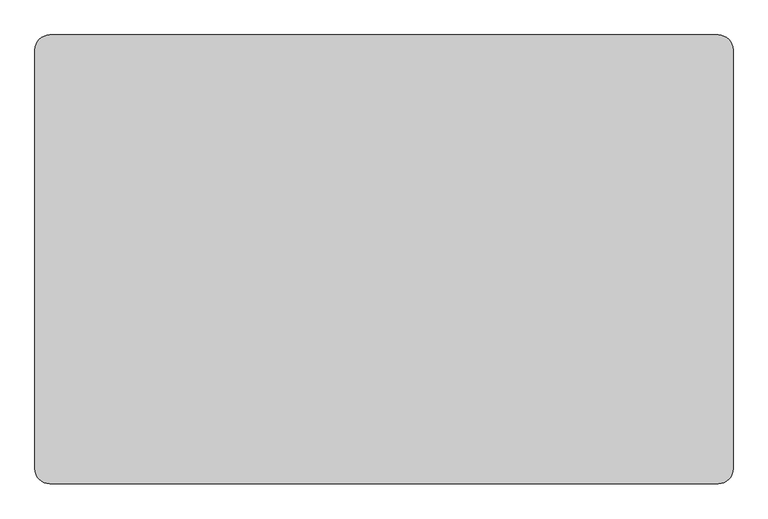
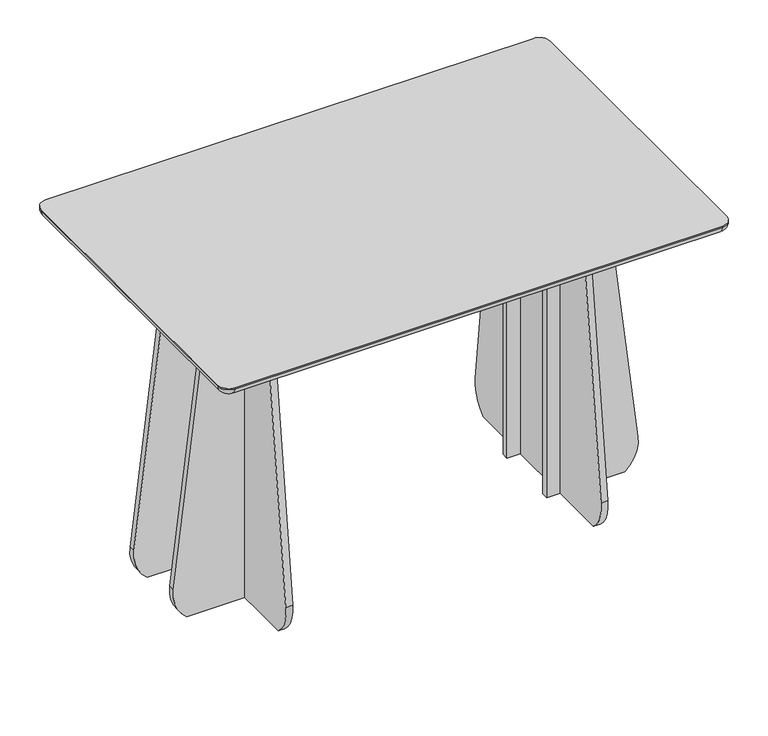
"""IFC4 building model written with IfcOpenShell, lengths in millimetres: furniture geometry, Lundbergs Möbler - Funghi Largo - Table - Rectangular - 140x90 - H90 : Lundbergs Möbler - Funghi Largo - Table - Rectangular - 140x90 - H90."""

from ifc_helpers import new_model, si_unit, point, frame, frame_2d, origin, place, context, project, spatial, polyline, circle_curve, ellipse_curve, trimmed, segment, composite_curve, outline, extrude, source, transform, mapped, element, save
from ifc_brep_helpers import plane_surface, cylinder_surface, revolved_surface, advanced_brep


def furniture_1b0d5a34(model_context):
    return source(origin(), model_context, "Body", "SolidModel", [
        advanced_brep(
        [(-680.0, 420.0, 876.0), (-700.0, 420.0, 896.0), (-670.0, 450.0, 896.0), (-670.0, 430.0, 876.0), (-680.0, -420.0, 876.0), (-700.0, -420.0, 896.0), (-670.0, -430.0, 876.0), (-670.0, -450.0, 896.0), (670.0, -430.0, 876.0), (670.0, -450.0, 896.0), (680.0, -420.0, 876.0), (700.0, -420.0, 896.0), (680.0, 420.0, 876.0), (700.0, 420.0, 896.0), (670.0, 430.0, 876.0), (670.0, 450.0, 896.0), (670.0, 450.0, 900.0), (-670.0, 450.0, 900.0), (-700.0, 420.0, 900.0), (-700.0, -420.0, 900.0), (-670.0, -450.0, 900.0), (670.0, -450.0, 900.0), (700.0, -420.0, 900.0), (700.0, 420.0, 900.0)],
        [
            (0, 1, circle_curve(frame((-680.0, 420.0, 896.0), z_axis=(0.0, 1.0, 0.0), x_axis=(1.0, 0.0, 0.0)), 20.0)),
            (1, 2, circle_curve(frame((-670.0, 420.0, 896.0), z_axis=(0.0, 0.0, -1.0), x_axis=(0.0, 1.0, 0.0)), 30.0)),
            (2, 3, circle_curve(frame((-670.0, 430.0, 896.0), z_axis=(-1.0, 0.0, 0.0), x_axis=(0.0, -1.0, 0.0)), 20.0)),
            (3, 0, circle_curve(frame((-670.0, 420.0, 876.0), z_axis=(0.0, 0.0, 1.0), x_axis=(0.0, 1.0, 0.0)), 10.0)),
            (0, 4),
            (4, 5, circle_curve(frame((-680.0, -420.0, 896.0), z_axis=(0.0, 1.0, 0.0), x_axis=(1.0, 0.0, 0.0)), 20.0)),
            (5, 1),
            (4, 6, circle_curve(frame((-670.0, -420.0, 876.0), z_axis=(0.0, 0.0, 1.0), x_axis=(-1.0, 0.0, 0.0)), 10.0)),
            (6, 7, circle_curve(frame((-670.0, -430.0, 896.0), z_axis=(-1.0, 0.0, 0.0), x_axis=(0.0, 1.0, 0.0)), 20.0)),
            (7, 5, circle_curve(frame((-670.0, -420.0, 896.0), z_axis=(0.0, 0.0, -1.0), x_axis=(-1.0, 0.0, 0.0)), 30.0)),
            (6, 8),
            (8, 9, circle_curve(frame((670.0, -430.0, 896.0), z_axis=(-1.0, 0.0, 0.0), x_axis=(0.0, 1.0, 0.0)), 20.0)),
            (9, 7),
            (8, 10, circle_curve(frame((670.0, -420.0, 876.0), z_axis=(0.0, 0.0, 1.0), x_axis=(0.0, -1.0, 0.0)), 10.0)),
            (10, 11, circle_curve(frame((680.0, -420.0, 896.0), z_axis=(0.0, -1.0, 0.0), x_axis=(-1.0, 0.0, 0.0)), 20.0)),
            (11, 9, circle_curve(frame((670.0, -420.0, 896.0), z_axis=(0.0, 0.0, -1.0), x_axis=(0.0, -1.0, 0.0)), 30.0)),
            (10, 12),
            (12, 13, circle_curve(frame((680.0, 420.0, 896.0), z_axis=(0.0, -1.0, 0.0), x_axis=(-1.0, 0.0, 0.0)), 20.0)),
            (13, 11),
            (12, 14, circle_curve(frame((670.0, 420.0, 876.0), z_axis=(0.0, 0.0, 1.0), x_axis=(1.0, 0.0, 0.0)), 10.0)),
            (14, 15, circle_curve(frame((670.0, 430.0, 896.0), z_axis=(1.0, 0.0, 0.0), x_axis=(0.0, -1.0, 0.0)), 20.0)),
            (15, 13, circle_curve(frame((670.0, 420.0, 896.0), z_axis=(0.0, 0.0, -1.0), x_axis=(1.0, 0.0, 0.0)), 30.0)),
            (2, 15),
            (14, 3),
            (16, 17),
            (17, 18, circle_curve(frame((-670.0, 420.0, 900.0), z_axis=(0.0, 0.0, 1.0), x_axis=(0.0, 1.0, 0.0)), 30.0)),
            (18, 19),
            (19, 20, circle_curve(frame((-670.0, -420.0, 900.0), z_axis=(0.0, 0.0, 1.0), x_axis=(0.0, 1.0, 0.0)), 30.0)),
            (20, 21),
            (21, 22, circle_curve(frame((670.0, -420.0, 900.0), z_axis=(0.0, 0.0, 1.0), x_axis=(0.0, 1.0, 0.0)), 30.0)),
            (22, 23),
            (23, 16, circle_curve(frame((670.0, 420.0, 900.0), z_axis=(0.0, 0.0, 1.0), x_axis=(0.0, 1.0, 0.0)), 30.0)),
            (16, 15),
            (2, 17),
            (1, 18),
            (5, 19),
            (7, 20),
            (9, 21),
            (11, 22),
            (13, 23),
        ],
        [
            revolved_surface(trimmed(ellipse_curve(frame((-670.0, 430.0, 896.0), z_axis=(1.0, 0.0, 0.0), x_axis=(0.0, -1.0, 0.0)), 20.0, 20.0), [point((-670.0, 430.0, 876.0))], [point((-670.0, 450.0, 896.0))], True, "CARTESIAN"), (-670.0, 420.0, 170.0), (0.0, 0.0, 1.0)),
            cylinder_surface(frame((-680.0, 420.0, 896.0), z_axis=(0.0, -1.0, 0.0), x_axis=(1.0, 0.0, 0.0)), 20.0),
            revolved_surface(trimmed(ellipse_curve(frame((-680.0, -420.0, 896.0), z_axis=(0.0, 1.0, 0.0), x_axis=(1.0, 0.0, 0.0)), 20.0, 20.0), [point((-680.0, -420.0, 876.0))], [point((-700.0, -420.0, 896.0))], True, "CARTESIAN"), (-670.0, -420.0, 170.0), (0.0, 0.0, 1.0)),
            cylinder_surface(frame((-670.0, -430.0, 896.0), z_axis=(1.0, 0.0, 0.0), x_axis=(0.0, 1.0, 0.0)), 20.0),
            revolved_surface(trimmed(ellipse_curve(frame((670.0, -430.0, 896.0), z_axis=(-1.0, 0.0, 0.0), x_axis=(0.0, 1.0, 0.0)), 20.0, 20.0), [point((670.0, -430.0, 876.0))], [point((670.0, -450.0, 896.0))], True, "CARTESIAN"), (670.0, -420.0, 170.0), (0.0, 0.0, 1.0)),
            cylinder_surface(frame((680.0, -420.0, 896.0), z_axis=(0.0, 1.0, 0.0), x_axis=(-1.0, 0.0, 0.0)), 20.0),
            revolved_surface(trimmed(ellipse_curve(frame((680.0, 420.0, 896.0), z_axis=(0.0, -1.0, 0.0), x_axis=(-1.0, 0.0, 0.0)), 20.0, 20.0), [point((680.0, 420.0, 876.0))], [point((700.0, 420.0, 896.0))], True, "CARTESIAN"), (670.0, 420.0, 170.0), (0.0, 0.0, 1.0)),
            cylinder_surface(frame((670.0, 430.0, 896.0), z_axis=(-1.0, 0.0, 0.0), x_axis=(0.0, -1.0, 0.0)), 20.0),
            plane_surface(frame((-670.0, 450.0, 900.0), z_axis=(0.0, 0.0, 1.0), x_axis=(-1.0, 0.0, 0.0))),
            plane_surface(frame((-670.0, 450.0, 876.0), z_axis=(0.0, 0.0, -1.0), x_axis=(1.0, 0.0, 0.0))),
            plane_surface(frame((670.0, 450.0, 900.0), z_axis=(0.0, 1.0, 0.0), x_axis=(0.0, 0.0, -1.0))),
            cylinder_surface(frame((-670.0, 420.0, 876.0), z_axis=(0.0, 0.0, 1.0), x_axis=(0.0, 1.0, 0.0)), 30.0),
            plane_surface(frame((-700.0, 420.0, 900.0), z_axis=(-1.0, 0.0, 0.0), x_axis=(0.0, 0.0, -1.0))),
            cylinder_surface(frame((-670.0, -420.0, 876.0), z_axis=(0.0, 0.0, 1.0), x_axis=(0.0, 1.0, 0.0)), 30.0),
            plane_surface(frame((-670.0, -450.0, 900.0), z_axis=(0.0, -1.0, 0.0), x_axis=(0.0, 0.0, -1.0))),
            cylinder_surface(frame((670.0, -420.0, 876.0), z_axis=(0.0, 0.0, 1.0), x_axis=(0.0, 1.0, 0.0)), 30.0),
            plane_surface(frame((700.0, -420.0, 900.0), z_axis=(1.0, 0.0, 0.0), x_axis=(0.0, 0.0, -1.0))),
            cylinder_surface(frame((670.0, 420.0, 876.0), z_axis=(0.0, 0.0, 1.0), x_axis=(0.0, 1.0, 0.0)), 30.0),
        ],
        [
            (0, [[1, 2, 3, 4]]),
            (1, [[-1, 5, 6, 7]]),
            (2, [[-6, 8, 9, 10]]),
            (3, [[-9, 11, 12, 13]]),
            (4, [[-12, 14, 15, 16]]),
            (5, [[-15, 17, 18, 19]]),
            (6, [[-18, 20, 21, 22]]),
            (7, [[-3, 23, -21, 24]]),
            (8, [[25, 26, 27, 28, 29, 30, 31, 32]]),
            (9, [[-4, -24, -20, -17, -14, -11, -8, -5]]),
            (10, [[-25, 33, -23, 34]]),
            (11, [[-26, -34, -2, 35]]),
            (12, [[-27, -35, -7, 36]]),
            (13, [[-28, -36, -10, 37]]),
            (14, [[-29, -37, -13, 38]]),
            (15, [[-30, -38, -16, 39]]),
            (16, [[-31, -39, -19, 40]]),
            (17, [[-32, -40, -22, -33]]),
        ],
    ),
        extrude(outline(composite_curve([segment(polyline([(481.25, 180.0), (517.25, 180.0)]), True, "CONTINUOUS"), segment(trimmed(circle_curve(frame_2d((517.25, 178.0)), 2.0), [point((517.25, 180.0))], [point((519.25, 178.0))], False, "CARTESIAN"), True, "CONTINUOUS"), segment(polyline([(519.25, 178.0), (519.25, -178.0)]), True, "CONTINUOUS"), segment(trimmed(circle_curve(frame_2d((517.25, -178.0)), 2.0), [point((519.25, -178.0))], [point((517.25, -180.0))], False, "CARTESIAN"), True, "CONTINUOUS"), segment(polyline([(517.25, -180.0), (481.25, -180.0)]), True, "CONTINUOUS"), segment(trimmed(circle_curve(frame_2d((481.25, -178.0)), 2.0), [point((481.25, -180.0))], [point((479.25, -178.0))], False, "CARTESIAN"), True, "CONTINUOUS"), segment(polyline([(479.25, -178.0), (479.25, 178.0)]), True, "CONTINUOUS"), segment(trimmed(circle_curve(frame_2d((481.25, 178.0)), 2.0), [point((479.25, 178.0))], [point((481.25, 180.0))], False, "CARTESIAN"), True, "CONTINUOUS")], self_intersect=False)), frame((0.0, 0.0, 856.0), z_axis=(0.0, 0.0, 1.0), x_axis=(1.0, 0.0, 0.0)), (0.0, 0.0, 1.0), 20.0),
        extrude(outline(composite_curve([segment(polyline([(361.25, 180.0), (451.25, 180.0)]), True, "CONTINUOUS"), segment(trimmed(circle_curve(frame_2d((451.25, 176.5)), 3.5), [point((451.25, 180.0))], [point((454.75, 176.5))], False, "CARTESIAN"), True, "CONTINUOUS"), segment(polyline([(454.75, 176.5), (454.75, 143.5)]), True, "CONTINUOUS"), segment(trimmed(circle_curve(frame_2d((451.25, 143.5)), 3.5), [point((454.75, 143.5))], [point((451.25, 140.0))], False, "CARTESIAN"), True, "CONTINUOUS"), segment(polyline([(451.25, 140.0), (361.25, 140.0)]), True, "CONTINUOUS"), segment(trimmed(circle_curve(frame_2d((361.25, 143.5)), 3.5), [point((361.25, 140.0))], [point((357.75, 143.5))], False, "CARTESIAN"), True, "CONTINUOUS"), segment(polyline([(357.75, 143.5), (357.75, 176.5)]), True, "CONTINUOUS"), segment(trimmed(circle_curve(frame_2d((361.25, 176.5)), 3.5), [point((357.75, 176.5))], [point((361.25, 180.0))], False, "CARTESIAN"), True, "CONTINUOUS")], self_intersect=False)), frame((0.0, 0.0, 856.0), z_axis=(0.0, 0.0, 1.0), x_axis=(1.0, 0.0, 0.0)), (0.0, 0.0, 1.0), 20.0),
        extrude(outline(composite_curve([segment(polyline([(361.25, -140.0), (451.25, -140.0)]), True, "CONTINUOUS"), segment(trimmed(circle_curve(frame_2d((451.25, -143.5)), 3.5), [point((451.25, -140.0))], [point((454.75, -143.5))], False, "CARTESIAN"), True, "CONTINUOUS"), segment(polyline([(454.75, -143.5), (454.75, -176.5)]), True, "CONTINUOUS"), segment(trimmed(circle_curve(frame_2d((451.25, -176.5)), 3.5), [point((454.75, -176.5))], [point((451.25, -180.0))], False, "CARTESIAN"), True, "CONTINUOUS"), segment(polyline([(451.25, -180.0), (361.25, -180.0)]), True, "CONTINUOUS"), segment(trimmed(circle_curve(frame_2d((361.25, -176.5)), 3.5), [point((361.25, -180.0))], [point((357.75, -176.5))], False, "CARTESIAN"), True, "CONTINUOUS"), segment(polyline([(357.75, -176.5), (357.75, -143.5)]), True, "CONTINUOUS"), segment(trimmed(circle_curve(frame_2d((361.25, -143.5)), 3.5), [point((357.75, -143.5))], [point((361.25, -140.0))], False, "CARTESIAN"), True, "CONTINUOUS")], self_intersect=False)), frame((0.0, 0.0, 856.0), z_axis=(0.0, 0.0, 1.0), x_axis=(1.0, 0.0, 0.0)), (0.0, 0.0, 1.0), 20.0),
        extrude(outline(composite_curve([segment(trimmed(circle_curve(frame_2d((200.0, 78.0350603)), 100.0), [point((299.2807726, 90.0070355))], [point((262.5342255, 0.0))], False, "CARTESIAN"), True, "CONTINUOUS"), segment(polyline([(262.5342255, 0.0), (-262.5342255, 0.0)]), True, "CONTINUOUS"), segment(trimmed(circle_curve(frame_2d((-200.0, 78.0350603)), 100.0), [point((-262.5342255, 0.0))], [point((-299.2807726, 90.0070355))], False, "CARTESIAN"), True, "CONTINUOUS"), segment(polyline([(-299.2807726, 90.0070355), (-204.500202, 876.0), (204.500202, 876.0), (299.2807726, 90.0070355)]), True, "CONTINUOUS")], self_intersect=False)), frame((424.25, 0.0, 0.0), z_axis=(1.0, 0.0, 0.0), x_axis=(0.0, 1.0, 0.0)), (0.0, 0.0, 1.0), 18.5),
        extrude(outline(composite_curve([segment(polyline([(90.0070355, 638.5307726), (876.0, 543.750202), (876.0, 387.25), (0.0, 387.25), (0.0, 601.7842255)]), True, "CONTINUOUS"), segment(trimmed(circle_curve(frame_2d((78.0350603, 539.25)), 100.0), [point((0.0, 601.7842255))], [point((90.0070355, 638.5307726))], False, "CARTESIAN"), True, "CONTINUOUS")], self_intersect=False)), frame((0.0, 85.5, 0.0), z_axis=(0.0, 1.0, 0.0), x_axis=(0.0, 0.0, 1.0)), (0.0, 0.0, 1.0), 18.0),
        extrude(outline(composite_curve([segment(polyline([(90.0070355, 638.5307726), (876.0, 543.750202), (876.0, 387.25), (0.0, 387.25), (0.0, 601.7842255)]), True, "CONTINUOUS"), segment(trimmed(circle_curve(frame_2d((78.0350603, 539.25)), 100.0), [point((0.0, 601.7842255))], [point((90.0070355, 638.5307726))], False, "CARTESIAN"), True, "CONTINUOUS")], self_intersect=False)), frame((0.0, -103.5, 0.0), z_axis=(0.0, 1.0, 0.0), x_axis=(0.0, 0.0, 1.0)), (0.0, 0.0, 1.0), 18.0),
        extrude(outline(composite_curve([segment(trimmed(circle_curve(frame_2d((-481.25, 178.0)), 2.0), [point((-481.25, 180.0))], [point((-479.25, 178.0))], False, "CARTESIAN"), True, "CONTINUOUS"), segment(polyline([(-479.25, 178.0), (-479.25, -178.0)]), True, "CONTINUOUS"), segment(trimmed(circle_curve(frame_2d((-481.25, -178.0)), 2.0), [point((-479.25, -178.0))], [point((-481.25, -180.0))], False, "CARTESIAN"), True, "CONTINUOUS"), segment(polyline([(-481.25, -180.0), (-517.25, -180.0)]), True, "CONTINUOUS"), segment(trimmed(circle_curve(frame_2d((-517.25, -178.0)), 2.0), [point((-517.25, -180.0))], [point((-519.25, -178.0))], False, "CARTESIAN"), True, "CONTINUOUS"), segment(polyline([(-519.25, -178.0), (-519.25, 178.0)]), True, "CONTINUOUS"), segment(trimmed(circle_curve(frame_2d((-517.25, 178.0)), 2.0), [point((-519.25, 178.0))], [point((-517.25, 180.0))], False, "CARTESIAN"), True, "CONTINUOUS"), segment(polyline([(-517.25, 180.0), (-481.25, 180.0)]), True, "CONTINUOUS")], self_intersect=False)), frame((0.0, 0.0, 856.0), z_axis=(0.0, 0.0, 1.0), x_axis=(1.0, 0.0, 0.0)), (0.0, 0.0, 1.0), 20.0),
        extrude(outline(composite_curve([segment(trimmed(circle_curve(frame_2d((-361.25, 176.5)), 3.5), [point((-361.25, 180.0))], [point((-357.75, 176.5))], False, "CARTESIAN"), True, "CONTINUOUS"), segment(polyline([(-357.75, 176.5), (-357.75, 143.5)]), True, "CONTINUOUS"), segment(trimmed(circle_curve(frame_2d((-361.25, 143.5)), 3.5), [point((-357.75, 143.5))], [point((-361.25, 140.0))], False, "CARTESIAN"), True, "CONTINUOUS"), segment(polyline([(-361.25, 140.0), (-451.25, 140.0)]), True, "CONTINUOUS"), segment(trimmed(circle_curve(frame_2d((-451.25, 143.5)), 3.5), [point((-451.25, 140.0))], [point((-454.75, 143.5))], False, "CARTESIAN"), True, "CONTINUOUS"), segment(polyline([(-454.75, 143.5), (-454.75, 176.5)]), True, "CONTINUOUS"), segment(trimmed(circle_curve(frame_2d((-451.25, 176.5)), 3.5), [point((-454.75, 176.5))], [point((-451.25, 180.0))], False, "CARTESIAN"), True, "CONTINUOUS"), segment(polyline([(-451.25, 180.0), (-361.25, 180.0)]), True, "CONTINUOUS")], self_intersect=False)), frame((0.0, 0.0, 856.0), z_axis=(0.0, 0.0, 1.0), x_axis=(1.0, 0.0, 0.0)), (0.0, 0.0, 1.0), 20.0),
        extrude(outline(composite_curve([segment(trimmed(circle_curve(frame_2d((-361.25, -143.5)), 3.5), [point((-361.25, -140.0))], [point((-357.75, -143.5))], False, "CARTESIAN"), True, "CONTINUOUS"), segment(polyline([(-357.75, -143.5), (-357.75, -176.5)]), True, "CONTINUOUS"), segment(trimmed(circle_curve(frame_2d((-361.25, -176.5)), 3.5), [point((-357.75, -176.5))], [point((-361.25, -180.0))], False, "CARTESIAN"), True, "CONTINUOUS"), segment(polyline([(-361.25, -180.0), (-451.25, -180.0)]), True, "CONTINUOUS"), segment(trimmed(circle_curve(frame_2d((-451.25, -176.5)), 3.5), [point((-451.25, -180.0))], [point((-454.75, -176.5))], False, "CARTESIAN"), True, "CONTINUOUS"), segment(polyline([(-454.75, -176.5), (-454.75, -143.5)]), True, "CONTINUOUS"), segment(trimmed(circle_curve(frame_2d((-451.25, -143.5)), 3.5), [point((-454.75, -143.5))], [point((-451.25, -140.0))], False, "CARTESIAN"), True, "CONTINUOUS"), segment(polyline([(-451.25, -140.0), (-361.25, -140.0)]), True, "CONTINUOUS")], self_intersect=False)), frame((0.0, 0.0, 856.0), z_axis=(0.0, 0.0, 1.0), x_axis=(1.0, 0.0, 0.0)), (0.0, 0.0, 1.0), 20.0),
        extrude(outline(composite_curve([segment(trimmed(circle_curve(frame_2d((200.0, 78.0350603)), 100.0), [point((299.2807726, 90.0070355))], [point((262.5342255, 0.0))], False, "CARTESIAN"), True, "CONTINUOUS"), segment(polyline([(262.5342255, 0.0), (-262.5342255, 0.0)]), True, "CONTINUOUS"), segment(trimmed(circle_curve(frame_2d((-200.0, 78.0350603)), 100.0), [point((-262.5342255, 0.0))], [point((-299.2807726, 90.0070355))], False, "CARTESIAN"), True, "CONTINUOUS"), segment(polyline([(-299.2807726, 90.0070355), (-204.500202, 876.0), (204.500202, 876.0), (299.2807726, 90.0070355)]), True, "CONTINUOUS")], self_intersect=False)), frame((-442.75, 0.0, 0.0), z_axis=(1.0, 0.0, 0.0), x_axis=(0.0, 1.0, 0.0)), (0.0, 0.0, 1.0), 18.5),
        extrude(outline(composite_curve([segment(trimmed(circle_curve(frame_2d((78.0350603, -539.25)), 100.0), [point((90.0070355, -638.5307726))], [point((0.0, -601.7842255))], False, "CARTESIAN"), True, "CONTINUOUS"), segment(polyline([(0.0, -601.7842255), (0.0, -387.25), (876.0, -387.25), (876.0, -543.750202), (90.0070355, -638.5307726)]), True, "CONTINUOUS")], self_intersect=False)), frame((0.0, 85.5, 0.0), z_axis=(0.0, 1.0, 0.0), x_axis=(0.0, 0.0, 1.0)), (0.0, 0.0, 1.0), 18.0),
        extrude(outline(composite_curve([segment(trimmed(circle_curve(frame_2d((78.0350603, -539.25)), 100.0), [point((90.0070355, -638.5307726))], [point((0.0, -601.7842255))], False, "CARTESIAN"), True, "CONTINUOUS"), segment(polyline([(0.0, -601.7842255), (0.0, -387.25), (876.0, -387.25), (876.0, -543.750202), (90.0070355, -638.5307726)]), True, "CONTINUOUS")], self_intersect=False)), frame((0.0, -103.5, 0.0), z_axis=(0.0, 1.0, 0.0), x_axis=(0.0, 0.0, 1.0)), (0.0, 0.0, 1.0), 18.0),
    ])


if __name__ == "__main__":
    model = new_model("IFC4")
    model_context = context("Model", 3, world=origin())
    ifc_project = project(units=[si_unit("LENGTHUNIT", "METRE", prefix="MILLI")], contexts=[model_context])
    site = spatial("IfcSite", under=ifc_project)
    building = spatial("IfcBuilding", under=site)
    placement = place(None, origin())
    furniture_shape = furniture_1b0d5a34(model_context)
    element("IfcFurniture", 1, ObjectType="Lundbergs Möbler - Funghi Largo - Table - Rectangular - 140x90 - H90 : Lundbergs Möbler - Funghi Largo - Table - Rectangular - 140x90 - H90", at=placement, inside=building, context=model_context, shape_type="MappedRepresentation", body=[
        mapped(furniture_shape, transform((0.0, 0.0, 0.0), x_axis=(1.0, 0.0, 0.0), y_axis=(0.0, 1.0, 0.0), z_axis=(0.0, 0.0, 1.0))),
    ])
    save(model, "model.ifc")
